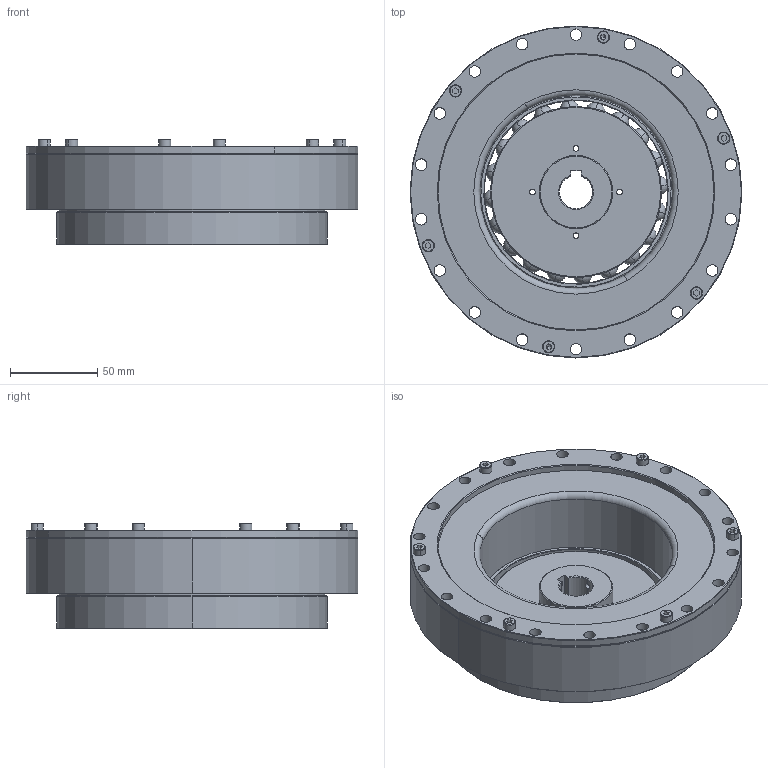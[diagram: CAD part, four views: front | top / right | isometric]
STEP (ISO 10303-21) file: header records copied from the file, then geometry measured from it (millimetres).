
FILE_DESCRIPTION (( 'STEP AP203' ), '1' );
FILE_NAME ('BHS-45-XXX-U-¢ñ.STEP', '2019-01-15T05:54:41', ( 'User' ), ( 'China' ), 'SwSTEP 2.0', 'SolidWorks 2015', '' );
FILE_SCHEMA (( 'CONFIG_CONTROL_DESIGN' ));
Length unit declared in the file: millimetre
Products named in the file (1): BHS-45-XXX-U-ｉ
Bounding box: 190 x 190 x 60.5 mm (x, y, z)
Surface area: 174262.9 mm2 (no closed solid volume)
Topology: 0 solids, 21 shells, 401 faces, 1301 edges, 833 vertices
Faces by surface type: cylinder 171, plane 98, cone 76, sphere 40, torus 12, bspline 4
Entity records: 16808 total; most frequent: CARTESIAN_POINT 5836, DIRECTION 2372, ORIENTED_EDGE 2097, EDGE_CURVE 1189, AXIS2_PLACEMENT_3D 956, VERTEX_POINT 773, CIRCLE 558, EDGE_LOOP 520
